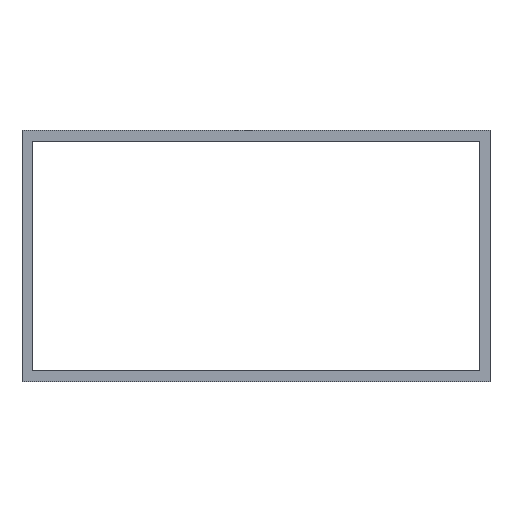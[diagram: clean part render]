
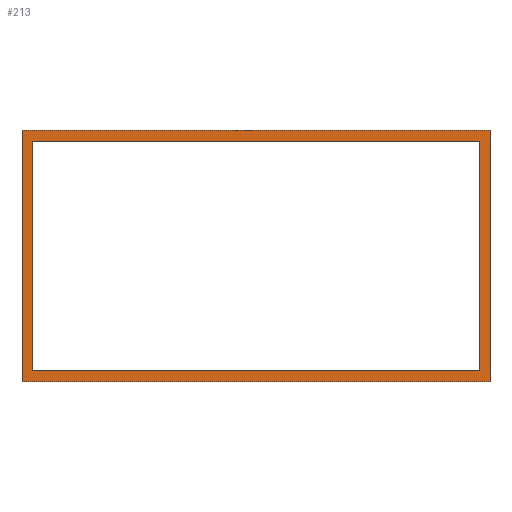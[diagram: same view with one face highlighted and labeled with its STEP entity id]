
A CAD part, top view. The second image highlights one B-rep face of the part: STEP entity #213.
In plain terms, the highlighted planar face has unit normal (0, 0, 1).
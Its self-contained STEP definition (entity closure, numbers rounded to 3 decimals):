
#24 = VERTEX_POINT('',#25);
#25 = CARTESIAN_POINT('',(-108.,-58.,1.));
#32 = PLANE('',#33);
#33 = AXIS2_PLACEMENT_3D('',#34,#35,#36);
#34 = CARTESIAN_POINT('',(-108.,-58.,0.));
#35 = DIRECTION('',(1.,0.,0.));
#36 = DIRECTION('',(0.,0.,1.));
#44 = PLANE('',#45);
#45 = AXIS2_PLACEMENT_3D('',#46,#47,#48);
#46 = CARTESIAN_POINT('',(-108.,-58.,0.));
#47 = DIRECTION('',(0.,1.,0.));
#48 = DIRECTION('',(0.,0.,1.));
#85 = VERTEX_POINT('',#86);
#86 = CARTESIAN_POINT('',(-108.,58.,1.));
#100 = PLANE('',#101);
#101 = AXIS2_PLACEMENT_3D('',#102,#103,#104);
#102 = CARTESIAN_POINT('',(-108.,58.,0.));
#103 = DIRECTION('',(0.,1.,0.));
#104 = DIRECTION('',(0.,0.,1.));
#112 = EDGE_CURVE('',#24,#85,#113,.T.);
#113 = SURFACE_CURVE('',#114,(#118,#125),.PCURVE_S1.);
#114 = LINE('',#115,#116);
#115 = CARTESIAN_POINT('',(-108.,-58.,1.));
#116 = VECTOR('',#117,1.);
#117 = DIRECTION('',(0.,1.,0.));
#118 = PCURVE('',#32,#119);
#119 = DEFINITIONAL_REPRESENTATION('',(#120),#124);
#120 = LINE('',#121,#122);
#121 = CARTESIAN_POINT('',(1.,0.));
#122 = VECTOR('',#123,1.);
#123 = DIRECTION('',(0.,-1.));
#124 = ( GEOMETRIC_REPRESENTATION_CONTEXT(2) 
PARAMETRIC_REPRESENTATION_CONTEXT() REPRESENTATION_CONTEXT('2D SPACE',''
  ) );
#125 = PCURVE('',#126,#131);
#126 = PLANE('',#127);
#127 = AXIS2_PLACEMENT_3D('',#128,#129,#130);
#128 = CARTESIAN_POINT('',(-108.,-58.,1.));
#129 = DIRECTION('',(0.,0.,1.));
#130 = DIRECTION('',(1.,0.,0.));
#131 = DEFINITIONAL_REPRESENTATION('',(#132),#136);
#132 = LINE('',#133,#134);
#133 = CARTESIAN_POINT('',(0.,0.));
#134 = VECTOR('',#135,1.);
#135 = DIRECTION('',(0.,1.));
#136 = ( GEOMETRIC_REPRESENTATION_CONTEXT(2) 
PARAMETRIC_REPRESENTATION_CONTEXT() REPRESENTATION_CONTEXT('2D SPACE',''
  ) );
#165 = EDGE_CURVE('',#24,#166,#168,.T.);
#166 = VERTEX_POINT('',#167);
#167 = CARTESIAN_POINT('',(108.,-58.,1.));
#168 = SURFACE_CURVE('',#169,(#173,#180),.PCURVE_S1.);
#169 = LINE('',#170,#171);
#170 = CARTESIAN_POINT('',(-108.,-58.,1.));
#171 = VECTOR('',#172,1.);
#172 = DIRECTION('',(1.,0.,0.));
#173 = PCURVE('',#44,#174);
#174 = DEFINITIONAL_REPRESENTATION('',(#175),#179);
#175 = LINE('',#176,#177);
#176 = CARTESIAN_POINT('',(1.,0.));
#177 = VECTOR('',#178,1.);
#178 = DIRECTION('',(0.,1.));
#179 = ( GEOMETRIC_REPRESENTATION_CONTEXT(2) 
PARAMETRIC_REPRESENTATION_CONTEXT() REPRESENTATION_CONTEXT('2D SPACE',''
  ) );
#180 = PCURVE('',#126,#181);
#181 = DEFINITIONAL_REPRESENTATION('',(#182),#186);
#182 = LINE('',#183,#184);
#183 = CARTESIAN_POINT('',(0.,0.));
#184 = VECTOR('',#185,1.);
#185 = DIRECTION('',(1.,0.));
#186 = ( GEOMETRIC_REPRESENTATION_CONTEXT(2) 
PARAMETRIC_REPRESENTATION_CONTEXT() REPRESENTATION_CONTEXT('2D SPACE',''
  ) );
#202 = PLANE('',#203);
#203 = AXIS2_PLACEMENT_3D('',#204,#205,#206);
#204 = CARTESIAN_POINT('',(108.,-58.,0.));
#205 = DIRECTION('',(1.,0.,0.));
#206 = DIRECTION('',(0.,0.,1.));
#213 = ADVANCED_FACE('',(#214,#262),#126,.T.);
#214 = FACE_BOUND('',#215,.T.);
#215 = EDGE_LOOP('',(#216,#217,#218,#241));
#216 = ORIENTED_EDGE('',*,*,#112,.F.);
#217 = ORIENTED_EDGE('',*,*,#165,.T.);
#218 = ORIENTED_EDGE('',*,*,#219,.T.);
#219 = EDGE_CURVE('',#166,#220,#222,.T.);
#220 = VERTEX_POINT('',#221);
#221 = CARTESIAN_POINT('',(108.,58.,1.));
#222 = SURFACE_CURVE('',#223,(#227,#234),.PCURVE_S1.);
#223 = LINE('',#224,#225);
#224 = CARTESIAN_POINT('',(108.,-58.,1.));
#225 = VECTOR('',#226,1.);
#226 = DIRECTION('',(0.,1.,0.));
#227 = PCURVE('',#126,#228);
#228 = DEFINITIONAL_REPRESENTATION('',(#229),#233);
#229 = LINE('',#230,#231);
#230 = CARTESIAN_POINT('',(216.,0.));
#231 = VECTOR('',#232,1.);
#232 = DIRECTION('',(0.,1.));
#233 = ( GEOMETRIC_REPRESENTATION_CONTEXT(2) 
PARAMETRIC_REPRESENTATION_CONTEXT() REPRESENTATION_CONTEXT('2D SPACE',''
  ) );
#234 = PCURVE('',#202,#235);
#235 = DEFINITIONAL_REPRESENTATION('',(#236),#240);
#236 = LINE('',#237,#238);
#237 = CARTESIAN_POINT('',(1.,0.));
#238 = VECTOR('',#239,1.);
#239 = DIRECTION('',(0.,-1.));
#240 = ( GEOMETRIC_REPRESENTATION_CONTEXT(2) 
PARAMETRIC_REPRESENTATION_CONTEXT() REPRESENTATION_CONTEXT('2D SPACE',''
  ) );
#241 = ORIENTED_EDGE('',*,*,#242,.F.);
#242 = EDGE_CURVE('',#85,#220,#243,.T.);
#243 = SURFACE_CURVE('',#244,(#248,#255),.PCURVE_S1.);
#244 = LINE('',#245,#246);
#245 = CARTESIAN_POINT('',(-108.,58.,1.));
#246 = VECTOR('',#247,1.);
#247 = DIRECTION('',(1.,0.,0.));
#248 = PCURVE('',#126,#249);
#249 = DEFINITIONAL_REPRESENTATION('',(#250),#254);
#250 = LINE('',#251,#252);
#251 = CARTESIAN_POINT('',(0.,116.));
#252 = VECTOR('',#253,1.);
#253 = DIRECTION('',(1.,0.));
#254 = ( GEOMETRIC_REPRESENTATION_CONTEXT(2) 
PARAMETRIC_REPRESENTATION_CONTEXT() REPRESENTATION_CONTEXT('2D SPACE',''
  ) );
#255 = PCURVE('',#100,#256);
#256 = DEFINITIONAL_REPRESENTATION('',(#257),#261);
#257 = LINE('',#258,#259);
#258 = CARTESIAN_POINT('',(1.,0.));
#259 = VECTOR('',#260,1.);
#260 = DIRECTION('',(0.,1.));
#261 = ( GEOMETRIC_REPRESENTATION_CONTEXT(2) 
PARAMETRIC_REPRESENTATION_CONTEXT() REPRESENTATION_CONTEXT('2D SPACE',''
  ) );
#262 = FACE_BOUND('',#263,.T.);
#263 = EDGE_LOOP('',(#264,#292,#318,#344));
#264 = ORIENTED_EDGE('',*,*,#265,.T.);
#265 = EDGE_CURVE('',#266,#268,#270,.T.);
#266 = VERTEX_POINT('',#267);
#267 = CARTESIAN_POINT('',(103.,-53.,1.));
#268 = VERTEX_POINT('',#269);
#269 = CARTESIAN_POINT('',(-103.,-53.,1.));
#270 = SURFACE_CURVE('',#271,(#275,#281),.PCURVE_S1.);
#271 = LINE('',#272,#273);
#272 = CARTESIAN_POINT('',(-105.5,-53.,1.));
#273 = VECTOR('',#274,1.);
#274 = DIRECTION('',(-1.,0.,0.));
#275 = PCURVE('',#126,#276);
#276 = DEFINITIONAL_REPRESENTATION('',(#277),#280);
#277 = B_SPLINE_CURVE_WITH_KNOTS('',1,(#278,#279),.UNSPECIFIED.,.F.,.F.,
  (2,2),(-208.5,-2.5),.PIECEWISE_BEZIER_KNOTS.);
#278 = CARTESIAN_POINT('',(211.,5.));
#279 = CARTESIAN_POINT('',(5.,5.));
#280 = ( GEOMETRIC_REPRESENTATION_CONTEXT(2) 
PARAMETRIC_REPRESENTATION_CONTEXT() REPRESENTATION_CONTEXT('2D SPACE',''
  ) );
#281 = PCURVE('',#282,#287);
#282 = PLANE('',#283);
#283 = AXIS2_PLACEMENT_3D('',#284,#285,#286);
#284 = CARTESIAN_POINT('',(-103.,-53.,-0.5));
#285 = DIRECTION('',(0.,1.,0.));
#286 = DIRECTION('',(0.,0.,1.));
#287 = DEFINITIONAL_REPRESENTATION('',(#288),#291);
#288 = B_SPLINE_CURVE_WITH_KNOTS('',1,(#289,#290),.UNSPECIFIED.,.F.,.F.,
  (2,2),(-208.5,-2.5),.PIECEWISE_BEZIER_KNOTS.);
#289 = CARTESIAN_POINT('',(1.5,206.));
#290 = CARTESIAN_POINT('',(1.5,0.));
#291 = ( GEOMETRIC_REPRESENTATION_CONTEXT(2) 
PARAMETRIC_REPRESENTATION_CONTEXT() REPRESENTATION_CONTEXT('2D SPACE',''
  ) );
#292 = ORIENTED_EDGE('',*,*,#293,.T.);
#293 = EDGE_CURVE('',#268,#294,#296,.T.);
#294 = VERTEX_POINT('',#295);
#295 = CARTESIAN_POINT('',(-103.,53.,1.));
#296 = SURFACE_CURVE('',#297,(#301,#307),.PCURVE_S1.);
#297 = LINE('',#298,#299);
#298 = CARTESIAN_POINT('',(-103.,-55.5,1.));
#299 = VECTOR('',#300,1.);
#300 = DIRECTION('',(0.,1.,0.));
#301 = PCURVE('',#126,#302);
#302 = DEFINITIONAL_REPRESENTATION('',(#303),#306);
#303 = B_SPLINE_CURVE_WITH_KNOTS('',1,(#304,#305),.UNSPECIFIED.,.F.,.F.,
  (2,2),(2.5,108.5),.PIECEWISE_BEZIER_KNOTS.);
#304 = CARTESIAN_POINT('',(5.,5.));
#305 = CARTESIAN_POINT('',(5.,111.));
#306 = ( GEOMETRIC_REPRESENTATION_CONTEXT(2) 
PARAMETRIC_REPRESENTATION_CONTEXT() REPRESENTATION_CONTEXT('2D SPACE',''
  ) );
#307 = PCURVE('',#308,#313);
#308 = PLANE('',#309);
#309 = AXIS2_PLACEMENT_3D('',#310,#311,#312);
#310 = CARTESIAN_POINT('',(-103.,-53.,-0.5));
#311 = DIRECTION('',(1.,0.,0.));
#312 = DIRECTION('',(0.,0.,1.));
#313 = DEFINITIONAL_REPRESENTATION('',(#314),#317);
#314 = B_SPLINE_CURVE_WITH_KNOTS('',1,(#315,#316),.UNSPECIFIED.,.F.,.F.,
  (2,2),(2.5,108.5),.PIECEWISE_BEZIER_KNOTS.);
#315 = CARTESIAN_POINT('',(1.5,0.));
#316 = CARTESIAN_POINT('',(1.5,-106.));
#317 = ( GEOMETRIC_REPRESENTATION_CONTEXT(2) 
PARAMETRIC_REPRESENTATION_CONTEXT() REPRESENTATION_CONTEXT('2D SPACE',''
  ) );
#318 = ORIENTED_EDGE('',*,*,#319,.F.);
#319 = EDGE_CURVE('',#320,#294,#322,.T.);
#320 = VERTEX_POINT('',#321);
#321 = CARTESIAN_POINT('',(103.,53.,1.));
#322 = SURFACE_CURVE('',#323,(#327,#333),.PCURVE_S1.);
#323 = LINE('',#324,#325);
#324 = CARTESIAN_POINT('',(-105.5,53.,1.));
#325 = VECTOR('',#326,1.);
#326 = DIRECTION('',(-1.,0.,0.));
#327 = PCURVE('',#126,#328);
#328 = DEFINITIONAL_REPRESENTATION('',(#329),#332);
#329 = B_SPLINE_CURVE_WITH_KNOTS('',1,(#330,#331),.UNSPECIFIED.,.F.,.F.,
  (2,2),(-208.5,-2.5),.PIECEWISE_BEZIER_KNOTS.);
#330 = CARTESIAN_POINT('',(211.,111.));
#331 = CARTESIAN_POINT('',(5.,111.));
#332 = ( GEOMETRIC_REPRESENTATION_CONTEXT(2) 
PARAMETRIC_REPRESENTATION_CONTEXT() REPRESENTATION_CONTEXT('2D SPACE',''
  ) );
#333 = PCURVE('',#334,#339);
#334 = PLANE('',#335);
#335 = AXIS2_PLACEMENT_3D('',#336,#337,#338);
#336 = CARTESIAN_POINT('',(-103.,53.,-0.5));
#337 = DIRECTION('',(0.,1.,0.));
#338 = DIRECTION('',(0.,0.,1.));
#339 = DEFINITIONAL_REPRESENTATION('',(#340),#343);
#340 = B_SPLINE_CURVE_WITH_KNOTS('',1,(#341,#342),.UNSPECIFIED.,.F.,.F.,
  (2,2),(-208.5,-2.5),.PIECEWISE_BEZIER_KNOTS.);
#341 = CARTESIAN_POINT('',(1.5,206.));
#342 = CARTESIAN_POINT('',(1.5,0.));
#343 = ( GEOMETRIC_REPRESENTATION_CONTEXT(2) 
PARAMETRIC_REPRESENTATION_CONTEXT() REPRESENTATION_CONTEXT('2D SPACE',''
  ) );
#344 = ORIENTED_EDGE('',*,*,#345,.F.);
#345 = EDGE_CURVE('',#266,#320,#346,.T.);
#346 = SURFACE_CURVE('',#347,(#351,#357),.PCURVE_S1.);
#347 = LINE('',#348,#349);
#348 = CARTESIAN_POINT('',(103.,-55.5,1.));
#349 = VECTOR('',#350,1.);
#350 = DIRECTION('',(0.,1.,0.));
#351 = PCURVE('',#126,#352);
#352 = DEFINITIONAL_REPRESENTATION('',(#353),#356);
#353 = B_SPLINE_CURVE_WITH_KNOTS('',1,(#354,#355),.UNSPECIFIED.,.F.,.F.,
  (2,2),(2.5,108.5),.PIECEWISE_BEZIER_KNOTS.);
#354 = CARTESIAN_POINT('',(211.,5.));
#355 = CARTESIAN_POINT('',(211.,111.));
#356 = ( GEOMETRIC_REPRESENTATION_CONTEXT(2) 
PARAMETRIC_REPRESENTATION_CONTEXT() REPRESENTATION_CONTEXT('2D SPACE',''
  ) );
#357 = PCURVE('',#358,#363);
#358 = PLANE('',#359);
#359 = AXIS2_PLACEMENT_3D('',#360,#361,#362);
#360 = CARTESIAN_POINT('',(103.,-53.,-0.5));
#361 = DIRECTION('',(1.,0.,0.));
#362 = DIRECTION('',(0.,0.,1.));
#363 = DEFINITIONAL_REPRESENTATION('',(#364),#367);
#364 = B_SPLINE_CURVE_WITH_KNOTS('',1,(#365,#366),.UNSPECIFIED.,.F.,.F.,
  (2,2),(2.5,108.5),.PIECEWISE_BEZIER_KNOTS.);
#365 = CARTESIAN_POINT('',(1.5,0.));
#366 = CARTESIAN_POINT('',(1.5,-106.));
#367 = ( GEOMETRIC_REPRESENTATION_CONTEXT(2) 
PARAMETRIC_REPRESENTATION_CONTEXT() REPRESENTATION_CONTEXT('2D SPACE',''
  ) );
